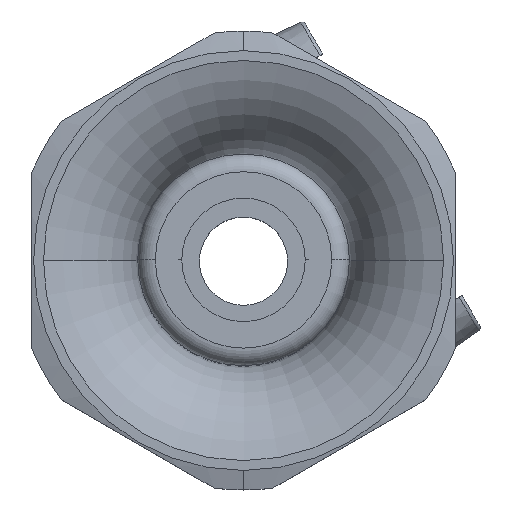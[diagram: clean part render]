
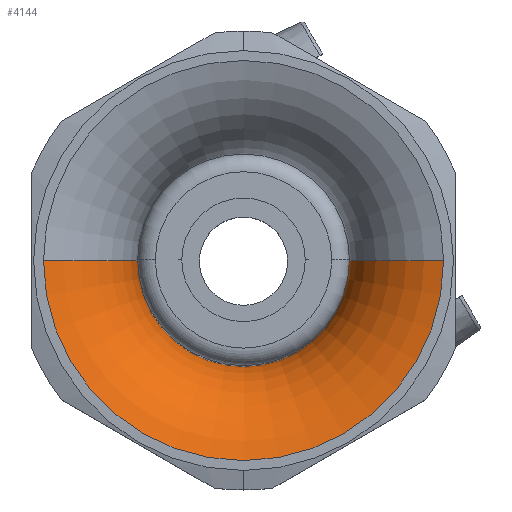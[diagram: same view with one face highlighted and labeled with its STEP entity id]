
A CAD part, top view. The second image highlights one B-rep face of the part: STEP entity #4144.
In plain terms, the highlighted toroidal (fillet/blend) face has major radius 13 mm and minor radius 7 mm.
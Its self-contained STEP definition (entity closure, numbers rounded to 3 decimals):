
#717 = DIRECTION ( 'NONE',  ( -1., 0., 0. ) ) ;
#718 = DIRECTION ( 'NONE',  ( 0., 1., 0. ) ) ;
#719 = CARTESIAN_POINT ( 'NONE',  ( -13., 0., 13.2 ) ) ;
#720 = AXIS2_PLACEMENT_3D ( 'NONE', #719, #718, #717 ) ;
#721 = CIRCLE ( 'NONE', #720, 7. ) ;
#722 = CARTESIAN_POINT ( 'NONE',  ( -11.339, 0., 20. ) ) ;
#723 = CARTESIAN_POINT ( 'NONE',  ( 11.339, 0., 20. ) ) ;
#800 = DIRECTION ( 'NONE',  ( 0., 0., -1. ) ) ;
#801 = DIRECTION ( 'NONE',  ( 0., -1., 0. ) ) ;
#802 = CARTESIAN_POINT ( 'NONE',  ( 13., 0., 13.2 ) ) ;
#803 = AXIS2_PLACEMENT_3D ( 'NONE', #802, #801, #800 ) ;
#804 = CIRCLE ( 'NONE', #803, 7. ) ;
#1142 = CARTESIAN_POINT ( 'NONE',  ( -6., 0., 13.2 ) ) ;
#1148 = CARTESIAN_POINT ( 'NONE',  ( 6., 0., 13.2 ) ) ;
#2285 = CARTESIAN_POINT ( 'NONE',  ( 0., 0., 13.2 ) ) ;
#2286 = AXIS2_PLACEMENT_3D ( 'NONE', #2285, #2337, #2336 ) ;
#2288 = TOROIDAL_SURFACE ( 'NONE', #2286, 13., 7. ) ;
#2289 = FACE_OUTER_BOUND ( 'NONE', #4145, .T. ) ;
#2316 = DIRECTION ( 'NONE',  ( 1., 0., 0. ) ) ;
#2317 = DIRECTION ( 'NONE',  ( 0., 0., 1. ) ) ;
#2318 = CARTESIAN_POINT ( 'NONE',  ( 0., 0., 13.2 ) ) ;
#2319 = AXIS2_PLACEMENT_3D ( 'NONE', #2318, #2317, #2316 ) ;
#2320 = CIRCLE ( 'NONE', #2319, 6. ) ;
#2336 = DIRECTION ( 'NONE',  ( 1., 0., 0. ) ) ;
#2337 = DIRECTION ( 'NONE',  ( 0., 0., 1. ) ) ;
#2365 = DIRECTION ( 'NONE',  ( 1., 0., 0. ) ) ;
#2366 = DIRECTION ( 'NONE',  ( 0., 0., 1. ) ) ;
#2367 = CARTESIAN_POINT ( 'NONE',  ( 0., 0., 20. ) ) ;
#2368 = AXIS2_PLACEMENT_3D ( 'NONE', #2367, #2366, #2365 ) ;
#2369 = CIRCLE ( 'NONE', #2368, 11.339 ) ;
#3263 = VERTEX_POINT ( 'NONE', #723 ) ;
#3264 = VERTEX_POINT ( 'NONE', #722 ) ;
#3266 = EDGE_CURVE ( 'NONE', #3264, #3525, #721, .T. ) ;
#3269 = EDGE_CURVE ( 'NONE', #3263, #3522, #804, .T. ) ;
#3522 = VERTEX_POINT ( 'NONE', #1148 ) ;
#3525 = VERTEX_POINT ( 'NONE', #1142 ) ;
#4144 = ADVANCED_FACE ( 'NONE', ( #2289 ), #2288, .T. ) ;
#4145 = EDGE_LOOP ( 'NONE', ( #4146, #4147, #4162, #4163 ) ) ;
#4146 = ORIENTED_EDGE ( 'NONE', *, *, #3266, .F. ) ;
#4147 = ORIENTED_EDGE ( 'NONE', *, *, #4196, .T. ) ;
#4162 = ORIENTED_EDGE ( 'NONE', *, *, #3269, .T. ) ;
#4163 = ORIENTED_EDGE ( 'NONE', *, *, #4164, .F. ) ;
#4164 = EDGE_CURVE ( 'NONE', #3525, #3522, #2320, .T. ) ;
#4196 = EDGE_CURVE ( 'NONE', #3264, #3263, #2369, .T. ) ;
